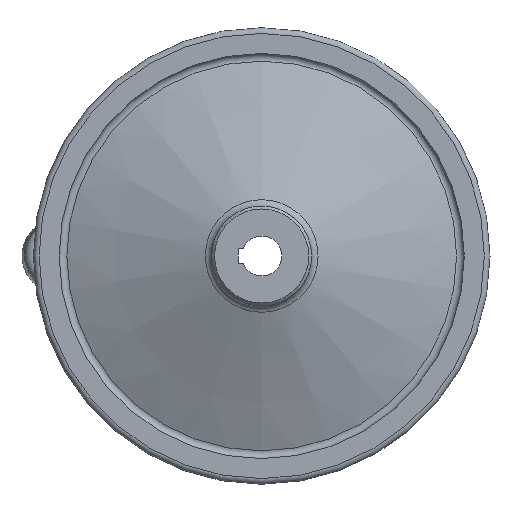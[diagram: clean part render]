
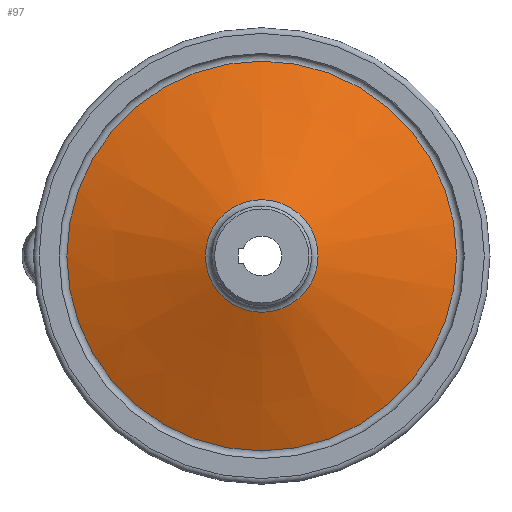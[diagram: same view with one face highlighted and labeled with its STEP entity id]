
A CAD part, left-side view. The second image highlights one B-rep face of the part: STEP entity #97.
In plain terms, the highlighted conical face has half-angle 69 degrees and reference radius 19.746 mm.
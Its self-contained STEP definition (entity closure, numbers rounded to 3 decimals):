
#97 = ADVANCED_FACE( '', ( #170, #171 ), #172, .T. );
#170 = FACE_OUTER_BOUND( '', #260, .T. );
#171 = FACE_BOUND( '', #261, .T. );
#172 = CONICAL_SURFACE( '', #262, 19.746, 1.204 );
#260 = EDGE_LOOP( '', ( #412 ) );
#261 = EDGE_LOOP( '', ( #413 ) );
#262 = AXIS2_PLACEMENT_3D( '', #414, #415, #416 );
#412 = ORIENTED_EDGE( '', *, *, #488, .T. );
#413 = ORIENTED_EDGE( '', *, *, #489, .F. );
#414 = CARTESIAN_POINT( '', ( 10.862, 0., 0. ) );
#415 = DIRECTION( '', ( 1., 0., 0. ) );
#416 = DIRECTION( '', ( 0., 0., -1. ) );
#488 = EDGE_CURVE( '', #552, #552, #553, .T. );
#489 = EDGE_CURVE( '', #554, #554, #555, .T. );
#552 = VERTEX_POINT( '', #634 );
#553 = CIRCLE( '', #635, 68.283 );
#554 = VERTEX_POINT( '', #636 );
#555 = CIRCLE( '', #637, 19.746 );
#634 = CARTESIAN_POINT( '', ( 29.494, 0., 68.283 ) );
#635 = AXIS2_PLACEMENT_3D( '', #720, #721, #722 );
#636 = CARTESIAN_POINT( '', ( 10.862, 0., 19.746 ) );
#637 = AXIS2_PLACEMENT_3D( '', #723, #724, #725 );
#720 = CARTESIAN_POINT( '', ( 29.494, 0., 0. ) );
#721 = DIRECTION( '', ( -1., 0., 0. ) );
#722 = DIRECTION( '', ( 0., 0., 1. ) );
#723 = CARTESIAN_POINT( '', ( 10.862, 0., 0. ) );
#724 = DIRECTION( '', ( -1., 0., 0. ) );
#725 = DIRECTION( '', ( 0., 0., 1. ) );
